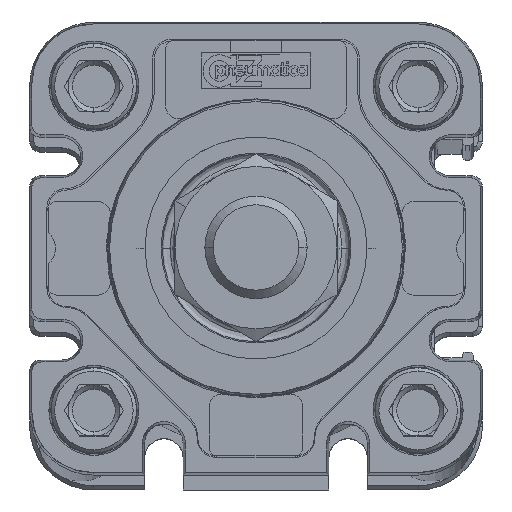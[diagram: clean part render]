
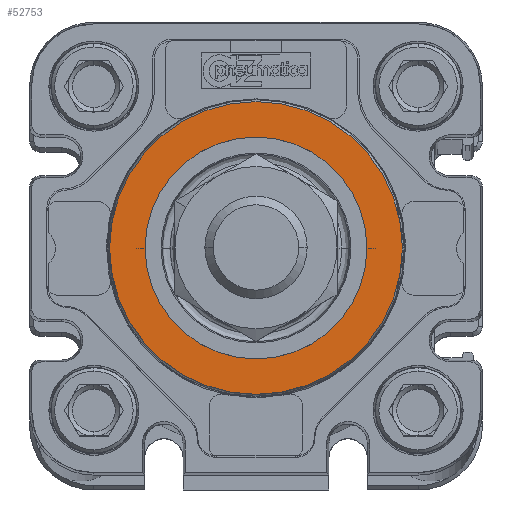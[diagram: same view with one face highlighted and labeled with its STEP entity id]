
A CAD part, top view. The second image highlights one B-rep face of the part: STEP entity #52753.
In plain terms, the highlighted planar face has unit normal (0, 0, 1) as drawn and (0, 0, -1) by its records, which use the part's own axes.
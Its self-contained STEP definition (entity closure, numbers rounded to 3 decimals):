
#1039 = DIRECTION ( 'NONE',  ( -1., 0., 0. ) ) ;
#2072 = AXIS2_PLACEMENT_3D ( 'NONE', #19900, #30194, #5320 ) ;
#2895 = CARTESIAN_POINT ( 'NONE',  ( -13., 0., -49.3 ) ) ;
#4182 = AXIS2_PLACEMENT_3D ( 'NONE', #58672, #39746, #1039 ) ;
#4663 = AXIS2_PLACEMENT_3D ( 'NONE', #41306, #12278, #45315 ) ;
#4712 = EDGE_CURVE ( 'NONE', #10160, #6944, #61567, .T. ) ;
#5320 = DIRECTION ( 'NONE',  ( 1., 0., 0. ) ) ;
#6944 = VERTEX_POINT ( 'NONE', #55174 ) ;
#7329 = ORIENTED_EDGE ( 'NONE', *, *, #7980, .T. ) ;
#7980 = EDGE_CURVE ( 'NONE', #60135, #18481, #22727, .T. ) ;
#10160 = VERTEX_POINT ( 'NONE', #2895 ) ;
#10603 = DIRECTION ( 'NONE',  ( 0., 0., -1. ) ) ;
#12278 = DIRECTION ( 'NONE',  ( 0., 0., 1. ) ) ;
#16528 = DIRECTION ( 'NONE',  ( -1., 0., 0. ) ) ;
#16776 = DIRECTION ( 'NONE',  ( 0., 0., -1. ) ) ;
#16865 = ORIENTED_EDGE ( 'NONE', *, *, #43365, .T. ) ;
#16990 = DIRECTION ( 'NONE',  ( -1., 0., 0. ) ) ;
#18481 = VERTEX_POINT ( 'NONE', #52374 ) ;
#19885 = AXIS2_PLACEMENT_3D ( 'NONE', #41168, #16776, #16990 ) ;
#19900 = CARTESIAN_POINT ( 'NONE',  ( 0., 0., -49.3 ) ) ;
#22727 = CIRCLE ( 'NONE', #19885, 17.154 ) ;
#25303 = CARTESIAN_POINT ( 'NONE',  ( 17.154, 0., -49.3 ) ) ;
#26562 = FACE_BOUND ( 'NONE', #45961, .T. ) ;
#28550 = CIRCLE ( 'NONE', #4663, 13. ) ;
#28599 = EDGE_CURVE ( 'NONE', #18481, #60135, #52380, .T. ) ;
#29701 = ORIENTED_EDGE ( 'NONE', *, *, #4712, .T. ) ;
#30194 = DIRECTION ( 'NONE',  ( 0., 0., 1. ) ) ;
#39746 = DIRECTION ( 'NONE',  ( 0., 0., -1. ) ) ;
#41168 = CARTESIAN_POINT ( 'NONE',  ( 0., 0., -49.3 ) ) ;
#41306 = CARTESIAN_POINT ( 'NONE',  ( 0., 0., -49.3 ) ) ;
#42307 = CARTESIAN_POINT ( 'NONE',  ( 0., 0., -49.3 ) ) ;
#43365 = EDGE_CURVE ( 'NONE', #6944, #10160, #28550, .T. ) ;
#45315 = DIRECTION ( 'NONE',  ( 1., 0., 0. ) ) ;
#45580 = ORIENTED_EDGE ( 'NONE', *, *, #28599, .T. ) ;
#45961 = EDGE_LOOP ( 'NONE', ( #16865, #29701 ) ) ;
#51865 = EDGE_LOOP ( 'NONE', ( #7329, #45580 ) ) ;
#52374 = CARTESIAN_POINT ( 'NONE',  ( -17.154, 0., -49.3 ) ) ;
#52380 = CIRCLE ( 'NONE', #54743, 17.154 ) ;
#52753 = ADVANCED_FACE ( 'NONE', ( #60871, #26562 ), #62534, .T. ) ;
#54743 = AXIS2_PLACEMENT_3D ( 'NONE', #42307, #10603, #16528 ) ;
#55174 = CARTESIAN_POINT ( 'NONE',  ( 13., 0., -49.3 ) ) ;
#58672 = CARTESIAN_POINT ( 'NONE',  ( 0., 0., -49.3 ) ) ;
#60135 = VERTEX_POINT ( 'NONE', #25303 ) ;
#60871 = FACE_OUTER_BOUND ( 'NONE', #51865, .T. ) ;
#61567 = CIRCLE ( 'NONE', #2072, 13. ) ;
#62534 = PLANE ( 'NONE',  #4182 ) ;
